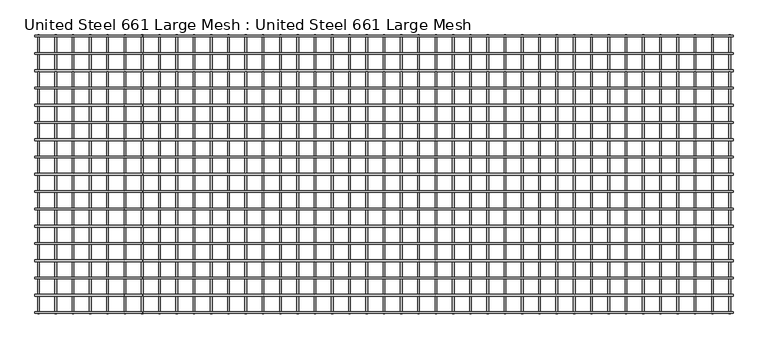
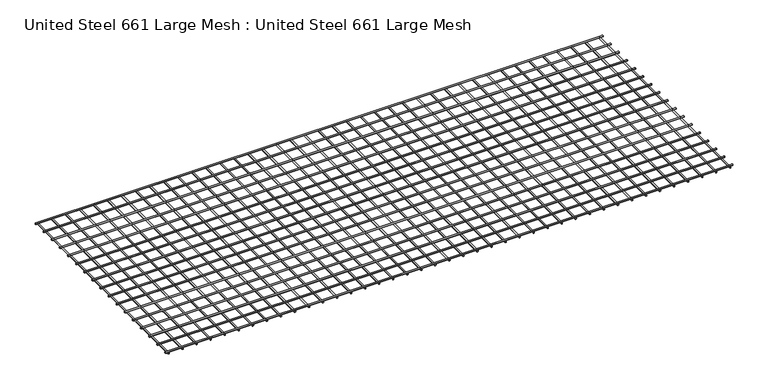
"""IFC4 building model written with IfcOpenShell, lengths in millimetres: proxy geometry, United Steel 661 Large Mesh : United Steel 661 Large Mesh."""

from ifc_helpers import new_model, si_unit, point, frame, frame_2d, origin, place, context, project, spatial, circle_curve, trimmed, segment, composite_curve, outline, extrude, source, transform, mapped, element, save


def united_steel_661_large_mesh_united_steel_661_large_mesh_0b2a143a(model_context):
    return source(origin(), model_context, "Body", "SweptSolid", [
        extrude(outline(composite_curve([segment(trimmed(circle_curve(frame_2d((-160.2412954, 22.48641)), 7.5), [point((-167.7412954, 22.48641))], [point((-152.7412954, 22.48641))], False, "CARTESIAN"), True, "CONTINUOUS"), segment(trimmed(circle_curve(frame_2d((-160.2412954, 22.48641)), 7.5), [point((-152.7412954, 22.48641))], [point((-167.7412954, 22.48641))], False, "CARTESIAN"), True, "CONTINUOUS")], self_intersect=False)), frame((-6060.0, 0.0, 0.0), z_axis=(1.0, 0.0, 0.0), x_axis=(0.0, 1.0, 0.0)), (0.0, 0.0, 1.0), 6060.0),
        extrude(outline(composite_curve([segment(trimmed(circle_curve(frame_2d((-310.2279647, 22.48641)), 7.5), [point((-317.7279647, 22.48641))], [point((-302.7279647, 22.48641))], False, "CARTESIAN"), True, "CONTINUOUS"), segment(trimmed(circle_curve(frame_2d((-310.2279647, 22.48641)), 7.5), [point((-302.7279647, 22.48641))], [point((-317.7279647, 22.48641))], False, "CARTESIAN"), True, "CONTINUOUS")], self_intersect=False)), frame((-6060.0, 0.0, 0.0), z_axis=(1.0, 0.0, 0.0), x_axis=(0.0, 1.0, 0.0)), (0.0, 0.0, 1.0), 6060.0),
        extrude(outline(composite_curve([segment(trimmed(circle_curve(frame_2d((-460.214634, 22.48641)), 7.5), [point((-467.714634, 22.48641))], [point((-452.714634, 22.48641))], False, "CARTESIAN"), True, "CONTINUOUS"), segment(trimmed(circle_curve(frame_2d((-460.214634, 22.48641)), 7.5), [point((-452.714634, 22.48641))], [point((-467.714634, 22.48641))], False, "CARTESIAN"), True, "CONTINUOUS")], self_intersect=False)), frame((-6060.0, 0.0, 0.0), z_axis=(1.0, 0.0, 0.0), x_axis=(0.0, 1.0, 0.0)), (0.0, 0.0, 1.0), 6060.0),
        extrude(outline(composite_curve([segment(trimmed(circle_curve(frame_2d((7.496924, -5879.1179494)), 7.5), [point((7.496924, -5886.6179494))], [point((7.496924, -5871.6179494))], False, "CARTESIAN"), True, "CONTINUOUS"), segment(trimmed(circle_curve(frame_2d((7.496924, -5879.1179494)), 7.5), [point((7.496924, -5871.6179494))], [point((7.496924, -5886.6179494))], False, "CARTESIAN"), True, "CONTINUOUS")], self_intersect=False)), frame((0.0, -2420.0, 0.0), z_axis=(0.0, 1.0, 0.0), x_axis=(0.0, 0.0, 1.0)), (0.0, 0.0, 1.0), 2420.0),
        extrude(outline(composite_curve([segment(trimmed(circle_curve(frame_2d((7.496924, -5729.136548)), 7.5), [point((7.496924, -5736.636548))], [point((7.496924, -5721.636548))], False, "CARTESIAN"), True, "CONTINUOUS"), segment(trimmed(circle_curve(frame_2d((7.496924, -5729.136548)), 7.5), [point((7.496924, -5721.636548))], [point((7.496924, -5736.636548))], False, "CARTESIAN"), True, "CONTINUOUS")], self_intersect=False)), frame((0.0, -2420.0, 0.0), z_axis=(0.0, 1.0, 0.0), x_axis=(0.0, 0.0, 1.0)), (0.0, 0.0, 1.0), 2420.0),
        extrude(outline(composite_curve([segment(trimmed(circle_curve(frame_2d((7.496924, -5579.1551467)), 7.5), [point((7.496924, -5586.6551467))], [point((7.496924, -5571.6551467))], False, "CARTESIAN"), True, "CONTINUOUS"), segment(trimmed(circle_curve(frame_2d((7.496924, -5579.1551467)), 7.5), [point((7.496924, -5571.6551467))], [point((7.496924, -5586.6551467))], False, "CARTESIAN"), True, "CONTINUOUS")], self_intersect=False)), frame((0.0, -2420.0, 0.0), z_axis=(0.0, 1.0, 0.0), x_axis=(0.0, 0.0, 1.0)), (0.0, 0.0, 1.0), 2420.0),
        extrude(outline(composite_curve([segment(trimmed(circle_curve(frame_2d((7.496924, -5429.1737454)), 7.5), [point((7.496924, -5436.6737454))], [point((7.496924, -5421.6737454))], False, "CARTESIAN"), True, "CONTINUOUS"), segment(trimmed(circle_curve(frame_2d((7.496924, -5429.1737454)), 7.5), [point((7.496924, -5421.6737454))], [point((7.496924, -5436.6737454))], False, "CARTESIAN"), True, "CONTINUOUS")], self_intersect=False)), frame((0.0, -2420.0, 0.0), z_axis=(0.0, 1.0, 0.0), x_axis=(0.0, 0.0, 1.0)), (0.0, 0.0, 1.0), 2420.0),
        extrude(outline(composite_curve([segment(trimmed(circle_curve(frame_2d((7.496924, -5279.1923441)), 7.5), [point((7.496924, -5286.6923441))], [point((7.496924, -5271.6923441))], False, "CARTESIAN"), True, "CONTINUOUS"), segment(trimmed(circle_curve(frame_2d((7.496924, -5279.1923441)), 7.5), [point((7.496924, -5271.6923441))], [point((7.496924, -5286.6923441))], False, "CARTESIAN"), True, "CONTINUOUS")], self_intersect=False)), frame((0.0, -2420.0, 0.0), z_axis=(0.0, 1.0, 0.0), x_axis=(0.0, 0.0, 1.0)), (0.0, 0.0, 1.0), 2420.0),
        extrude(outline(composite_curve([segment(trimmed(circle_curve(frame_2d((7.496924, -5129.2109428)), 7.5), [point((7.496924, -5136.7109428))], [point((7.496924, -5121.7109428))], False, "CARTESIAN"), True, "CONTINUOUS"), segment(trimmed(circle_curve(frame_2d((7.496924, -5129.2109428)), 7.5), [point((7.496924, -5121.7109428))], [point((7.496924, -5136.7109428))], False, "CARTESIAN"), True, "CONTINUOUS")], self_intersect=False)), frame((0.0, -2420.0, 0.0), z_axis=(0.0, 1.0, 0.0), x_axis=(0.0, 0.0, 1.0)), (0.0, 0.0, 1.0), 2420.0),
        extrude(outline(composite_curve([segment(trimmed(circle_curve(frame_2d((7.496924, -4979.2295415)), 7.5), [point((7.496924, -4986.7295415))], [point((7.496924, -4971.7295415))], False, "CARTESIAN"), True, "CONTINUOUS"), segment(trimmed(circle_curve(frame_2d((7.496924, -4979.2295415)), 7.5), [point((7.496924, -4971.7295415))], [point((7.496924, -4986.7295415))], False, "CARTESIAN"), True, "CONTINUOUS")], self_intersect=False)), frame((0.0, -2420.0, 0.0), z_axis=(0.0, 1.0, 0.0), x_axis=(0.0, 0.0, 1.0)), (0.0, 0.0, 1.0), 2420.0),
        extrude(outline(composite_curve([segment(trimmed(circle_curve(frame_2d((7.496924, -4829.2481401)), 7.5), [point((7.496924, -4836.7481401))], [point((7.496924, -4821.7481401))], False, "CARTESIAN"), True, "CONTINUOUS"), segment(trimmed(circle_curve(frame_2d((7.496924, -4829.2481401)), 7.5), [point((7.496924, -4821.7481401))], [point((7.496924, -4836.7481401))], False, "CARTESIAN"), True, "CONTINUOUS")], self_intersect=False)), frame((0.0, -2420.0, 0.0), z_axis=(0.0, 1.0, 0.0), x_axis=(0.0, 0.0, 1.0)), (0.0, 0.0, 1.0), 2420.0),
        extrude(outline(composite_curve([segment(trimmed(circle_curve(frame_2d((7.496924, -4679.2667388)), 7.5), [point((7.496924, -4686.7667388))], [point((7.496924, -4671.7667388))], False, "CARTESIAN"), True, "CONTINUOUS"), segment(trimmed(circle_curve(frame_2d((7.496924, -4679.2667388)), 7.5), [point((7.496924, -4671.7667388))], [point((7.496924, -4686.7667388))], False, "CARTESIAN"), True, "CONTINUOUS")], self_intersect=False)), frame((0.0, -2420.0, 0.0), z_axis=(0.0, 1.0, 0.0), x_axis=(0.0, 0.0, 1.0)), (0.0, 0.0, 1.0), 2420.0),
        extrude(outline(composite_curve([segment(trimmed(circle_curve(frame_2d((7.496924, -4529.2853375)), 7.5), [point((7.496924, -4536.7853375))], [point((7.496924, -4521.7853375))], False, "CARTESIAN"), True, "CONTINUOUS"), segment(trimmed(circle_curve(frame_2d((7.496924, -4529.2853375)), 7.5), [point((7.496924, -4521.7853375))], [point((7.496924, -4536.7853375))], False, "CARTESIAN"), True, "CONTINUOUS")], self_intersect=False)), frame((0.0, -2420.0, 0.0), z_axis=(0.0, 1.0, 0.0), x_axis=(0.0, 0.0, 1.0)), (0.0, 0.0, 1.0), 2420.0),
        extrude(outline(composite_curve([segment(trimmed(circle_curve(frame_2d((-610.2013032, 22.48641)), 7.5), [point((-617.7013032, 22.48641))], [point((-602.7013032, 22.48641))], False, "CARTESIAN"), True, "CONTINUOUS"), segment(trimmed(circle_curve(frame_2d((-610.2013032, 22.48641)), 7.5), [point((-602.7013032, 22.48641))], [point((-617.7013032, 22.48641))], False, "CARTESIAN"), True, "CONTINUOUS")], self_intersect=False)), frame((-6060.0, 0.0, 0.0), z_axis=(1.0, 0.0, 0.0), x_axis=(0.0, 1.0, 0.0)), (0.0, 0.0, 1.0), 6060.0),
        extrude(outline(composite_curve([segment(trimmed(circle_curve(frame_2d((7.496924, -4379.3039362)), 7.5), [point((7.496924, -4386.8039362))], [point((7.496924, -4371.8039362))], False, "CARTESIAN"), True, "CONTINUOUS"), segment(trimmed(circle_curve(frame_2d((7.496924, -4379.3039362)), 7.5), [point((7.496924, -4371.8039362))], [point((7.496924, -4386.8039362))], False, "CARTESIAN"), True, "CONTINUOUS")], self_intersect=False)), frame((0.0, -2420.0, 0.0), z_axis=(0.0, 1.0, 0.0), x_axis=(0.0, 0.0, 1.0)), (0.0, 0.0, 1.0), 2420.0),
        extrude(outline(composite_curve([segment(trimmed(circle_curve(frame_2d((-760.1879725, 22.48641)), 7.5), [point((-767.6879725, 22.48641))], [point((-752.6879725, 22.48641))], False, "CARTESIAN"), True, "CONTINUOUS"), segment(trimmed(circle_curve(frame_2d((-760.1879725, 22.48641)), 7.5), [point((-752.6879725, 22.48641))], [point((-767.6879725, 22.48641))], False, "CARTESIAN"), True, "CONTINUOUS")], self_intersect=False)), frame((-6060.0, 0.0, 0.0), z_axis=(1.0, 0.0, 0.0), x_axis=(0.0, 1.0, 0.0)), (0.0, 0.0, 1.0), 6060.0),
        extrude(outline(composite_curve([segment(trimmed(circle_curve(frame_2d((-910.1746417, 22.48641)), 7.5), [point((-917.6746417, 22.48641))], [point((-902.6746417, 22.48641))], False, "CARTESIAN"), True, "CONTINUOUS"), segment(trimmed(circle_curve(frame_2d((-910.1746417, 22.48641)), 7.5), [point((-902.6746417, 22.48641))], [point((-917.6746417, 22.48641))], False, "CARTESIAN"), True, "CONTINUOUS")], self_intersect=False)), frame((-6060.0, 0.0, 0.0), z_axis=(1.0, 0.0, 0.0), x_axis=(0.0, 1.0, 0.0)), (0.0, 0.0, 1.0), 6060.0),
        extrude(outline(composite_curve([segment(trimmed(circle_curve(frame_2d((7.496924, -4229.3225349)), 7.5), [point((7.496924, -4236.8225349))], [point((7.496924, -4221.8225349))], False, "CARTESIAN"), True, "CONTINUOUS"), segment(trimmed(circle_curve(frame_2d((7.496924, -4229.3225349)), 7.5), [point((7.496924, -4221.8225349))], [point((7.496924, -4236.8225349))], False, "CARTESIAN"), True, "CONTINUOUS")], self_intersect=False)), frame((0.0, -2420.0, 0.0), z_axis=(0.0, 1.0, 0.0), x_axis=(0.0, 0.0, 1.0)), (0.0, 0.0, 1.0), 2420.0),
        extrude(outline(composite_curve([segment(trimmed(circle_curve(frame_2d((7.496924, -4079.3411336)), 7.5), [point((7.496924, -4086.8411336))], [point((7.496924, -4071.8411336))], False, "CARTESIAN"), True, "CONTINUOUS"), segment(trimmed(circle_curve(frame_2d((7.496924, -4079.3411336)), 7.5), [point((7.496924, -4071.8411336))], [point((7.496924, -4086.8411336))], False, "CARTESIAN"), True, "CONTINUOUS")], self_intersect=False)), frame((0.0, -2420.0, 0.0), z_axis=(0.0, 1.0, 0.0), x_axis=(0.0, 0.0, 1.0)), (0.0, 0.0, 1.0), 2420.0),
        extrude(outline(composite_curve([segment(trimmed(circle_curve(frame_2d((7.496924, -3929.3597323)), 7.5), [point((7.496924, -3936.8597323))], [point((7.496924, -3921.8597323))], False, "CARTESIAN"), True, "CONTINUOUS"), segment(trimmed(circle_curve(frame_2d((7.496924, -3929.3597323)), 7.5), [point((7.496924, -3921.8597323))], [point((7.496924, -3936.8597323))], False, "CARTESIAN"), True, "CONTINUOUS")], self_intersect=False)), frame((0.0, -2420.0, 0.0), z_axis=(0.0, 1.0, 0.0), x_axis=(0.0, 0.0, 1.0)), (0.0, 0.0, 1.0), 2420.0),
        extrude(outline(composite_curve([segment(trimmed(circle_curve(frame_2d((7.496924, -3779.3783309)), 7.5), [point((7.496924, -3786.8783309))], [point((7.496924, -3771.8783309))], False, "CARTESIAN"), True, "CONTINUOUS"), segment(trimmed(circle_curve(frame_2d((7.496924, -3779.3783309)), 7.5), [point((7.496924, -3771.8783309))], [point((7.496924, -3786.8783309))], False, "CARTESIAN"), True, "CONTINUOUS")], self_intersect=False)), frame((0.0, -2420.0, 0.0), z_axis=(0.0, 1.0, 0.0), x_axis=(0.0, 0.0, 1.0)), (0.0, 0.0, 1.0), 2420.0),
        extrude(outline(composite_curve([segment(trimmed(circle_curve(frame_2d((7.496924, -3629.3969296)), 7.5), [point((7.496924, -3636.8969296))], [point((7.496924, -3621.8969296))], False, "CARTESIAN"), True, "CONTINUOUS"), segment(trimmed(circle_curve(frame_2d((7.496924, -3629.3969296)), 7.5), [point((7.496924, -3621.8969296))], [point((7.496924, -3636.8969296))], False, "CARTESIAN"), True, "CONTINUOUS")], self_intersect=False)), frame((0.0, -2420.0, 0.0), z_axis=(0.0, 1.0, 0.0), x_axis=(0.0, 0.0, 1.0)), (0.0, 0.0, 1.0), 2420.0),
        extrude(outline(composite_curve([segment(trimmed(circle_curve(frame_2d((7.496924, -3479.4155283)), 7.5), [point((7.496924, -3486.9155283))], [point((7.496924, -3471.9155283))], False, "CARTESIAN"), True, "CONTINUOUS"), segment(trimmed(circle_curve(frame_2d((7.496924, -3479.4155283)), 7.5), [point((7.496924, -3471.9155283))], [point((7.496924, -3486.9155283))], False, "CARTESIAN"), True, "CONTINUOUS")], self_intersect=False)), frame((0.0, -2420.0, 0.0), z_axis=(0.0, 1.0, 0.0), x_axis=(0.0, 0.0, 1.0)), (0.0, 0.0, 1.0), 2420.0),
        extrude(outline(composite_curve([segment(trimmed(circle_curve(frame_2d((7.496924, -3329.434127)), 7.5), [point((7.496924, -3336.934127))], [point((7.496924, -3321.934127))], False, "CARTESIAN"), True, "CONTINUOUS"), segment(trimmed(circle_curve(frame_2d((7.496924, -3329.434127)), 7.5), [point((7.496924, -3321.934127))], [point((7.496924, -3336.934127))], False, "CARTESIAN"), True, "CONTINUOUS")], self_intersect=False)), frame((0.0, -2420.0, 0.0), z_axis=(0.0, 1.0, 0.0), x_axis=(0.0, 0.0, 1.0)), (0.0, 0.0, 1.0), 2420.0),
        extrude(outline(composite_curve([segment(trimmed(circle_curve(frame_2d((-1060.161311, 22.48641)), 7.5), [point((-1067.661311, 22.48641))], [point((-1052.661311, 22.48641))], False, "CARTESIAN"), True, "CONTINUOUS"), segment(trimmed(circle_curve(frame_2d((-1060.161311, 22.48641)), 7.5), [point((-1052.661311, 22.48641))], [point((-1067.661311, 22.48641))], False, "CARTESIAN"), True, "CONTINUOUS")], self_intersect=False)), frame((-6060.0, 0.0, 0.0), z_axis=(1.0, 0.0, 0.0), x_axis=(0.0, 1.0, 0.0)), (0.0, 0.0, 1.0), 6060.0),
        extrude(outline(composite_curve([segment(trimmed(circle_curve(frame_2d((-1210.1479802, 22.48641)), 7.5), [point((-1217.6479802, 22.48641))], [point((-1202.6479802, 22.48641))], False, "CARTESIAN"), True, "CONTINUOUS"), segment(trimmed(circle_curve(frame_2d((-1210.1479802, 22.48641)), 7.5), [point((-1202.6479802, 22.48641))], [point((-1217.6479802, 22.48641))], False, "CARTESIAN"), True, "CONTINUOUS")], self_intersect=False)), frame((-6060.0, 0.0, 0.0), z_axis=(1.0, 0.0, 0.0), x_axis=(0.0, 1.0, 0.0)), (0.0, 0.0, 1.0), 6060.0),
        extrude(outline(composite_curve([segment(trimmed(circle_curve(frame_2d((-1360.1346495, 22.48641)), 7.5), [point((-1367.6346495, 22.48641))], [point((-1352.6346495, 22.48641))], False, "CARTESIAN"), True, "CONTINUOUS"), segment(trimmed(circle_curve(frame_2d((-1360.1346495, 22.48641)), 7.5), [point((-1352.6346495, 22.48641))], [point((-1367.6346495, 22.48641))], False, "CARTESIAN"), True, "CONTINUOUS")], self_intersect=False)), frame((-6060.0, 0.0, 0.0), z_axis=(1.0, 0.0, 0.0), x_axis=(0.0, 1.0, 0.0)), (0.0, 0.0, 1.0), 6060.0),
        extrude(outline(composite_curve([segment(trimmed(circle_curve(frame_2d((-1510.1213187, 22.48641)), 7.5), [point((-1517.6213187, 22.48641))], [point((-1502.6213187, 22.48641))], False, "CARTESIAN"), True, "CONTINUOUS"), segment(trimmed(circle_curve(frame_2d((-1510.1213187, 22.48641)), 7.5), [point((-1502.6213187, 22.48641))], [point((-1517.6213187, 22.48641))], False, "CARTESIAN"), True, "CONTINUOUS")], self_intersect=False)), frame((-6060.0, 0.0, 0.0), z_axis=(1.0, 0.0, 0.0), x_axis=(0.0, 1.0, 0.0)), (0.0, 0.0, 1.0), 6060.0),
        extrude(outline(composite_curve([segment(trimmed(circle_curve(frame_2d((-1660.107988, 22.48641)), 7.5), [point((-1667.607988, 22.48641))], [point((-1652.607988, 22.48641))], False, "CARTESIAN"), True, "CONTINUOUS"), segment(trimmed(circle_curve(frame_2d((-1660.107988, 22.48641)), 7.5), [point((-1652.607988, 22.48641))], [point((-1667.607988, 22.48641))], False, "CARTESIAN"), True, "CONTINUOUS")], self_intersect=False)), frame((-6060.0, 0.0, 0.0), z_axis=(1.0, 0.0, 0.0), x_axis=(0.0, 1.0, 0.0)), (0.0, 0.0, 1.0), 6060.0),
        extrude(outline(composite_curve([segment(trimmed(circle_curve(frame_2d((-1810.0946573, 22.48641)), 7.5), [point((-1817.5946573, 22.48641))], [point((-1802.5946573, 22.48641))], False, "CARTESIAN"), True, "CONTINUOUS"), segment(trimmed(circle_curve(frame_2d((-1810.0946573, 22.48641)), 7.5), [point((-1802.5946573, 22.48641))], [point((-1817.5946573, 22.48641))], False, "CARTESIAN"), True, "CONTINUOUS")], self_intersect=False)), frame((-6060.0, 0.0, 0.0), z_axis=(1.0, 0.0, 0.0), x_axis=(0.0, 1.0, 0.0)), (0.0, 0.0, 1.0), 6060.0),
        extrude(outline(composite_curve([segment(trimmed(circle_curve(frame_2d((-1960.0813265, 22.48641)), 7.5), [point((-1967.5813265, 22.48641))], [point((-1952.5813265, 22.48641))], False, "CARTESIAN"), True, "CONTINUOUS"), segment(trimmed(circle_curve(frame_2d((-1960.0813265, 22.48641)), 7.5), [point((-1952.5813265, 22.48641))], [point((-1967.5813265, 22.48641))], False, "CARTESIAN"), True, "CONTINUOUS")], self_intersect=False)), frame((-6060.0, 0.0, 0.0), z_axis=(1.0, 0.0, 0.0), x_axis=(0.0, 1.0, 0.0)), (0.0, 0.0, 1.0), 6060.0),
        extrude(outline(composite_curve([segment(trimmed(circle_curve(frame_2d((-2110.0679958, 22.48641)), 7.5), [point((-2117.5679958, 22.48641))], [point((-2102.5679958, 22.48641))], False, "CARTESIAN"), True, "CONTINUOUS"), segment(trimmed(circle_curve(frame_2d((-2110.0679958, 22.48641)), 7.5), [point((-2102.5679958, 22.48641))], [point((-2117.5679958, 22.48641))], False, "CARTESIAN"), True, "CONTINUOUS")], self_intersect=False)), frame((-6060.0, 0.0, 0.0), z_axis=(1.0, 0.0, 0.0), x_axis=(0.0, 1.0, 0.0)), (0.0, 0.0, 1.0), 6060.0),
        extrude(outline(composite_curve([segment(trimmed(circle_curve(frame_2d((-2260.054665, 22.48641)), 7.5), [point((-2267.554665, 22.48641))], [point((-2252.554665, 22.48641))], False, "CARTESIAN"), True, "CONTINUOUS"), segment(trimmed(circle_curve(frame_2d((-2260.054665, 22.48641)), 7.5), [point((-2252.554665, 22.48641))], [point((-2267.554665, 22.48641))], False, "CARTESIAN"), True, "CONTINUOUS")], self_intersect=False)), frame((-6060.0, 0.0, 0.0), z_axis=(1.0, 0.0, 0.0), x_axis=(0.0, 1.0, 0.0)), (0.0, 0.0, 1.0), 6060.0),
        extrude(outline(composite_curve([segment(trimmed(circle_curve(frame_2d((-10.2546262, 22.48641)), 7.5), [point((-17.7546262, 22.48641))], [point((-2.7546262, 22.48641))], False, "CARTESIAN"), True, "CONTINUOUS"), segment(trimmed(circle_curve(frame_2d((-10.2546262, 22.48641)), 7.5), [point((-2.7546262, 22.48641))], [point((-17.7546262, 22.48641))], False, "CARTESIAN"), True, "CONTINUOUS")], self_intersect=False)), frame((-6060.0, 0.0, 0.0), z_axis=(1.0, 0.0, 0.0), x_axis=(0.0, 1.0, 0.0)), (0.0, 0.0, 1.0), 6060.0),
        extrude(outline(composite_curve([segment(trimmed(circle_curve(frame_2d((-2410.0413343, 22.48641)), 7.5), [point((-2417.5413343, 22.48641))], [point((-2402.5413343, 22.48641))], False, "CARTESIAN"), True, "CONTINUOUS"), segment(trimmed(circle_curve(frame_2d((-2410.0413343, 22.48641)), 7.5), [point((-2402.5413343, 22.48641))], [point((-2417.5413343, 22.48641))], False, "CARTESIAN"), True, "CONTINUOUS")], self_intersect=False)), frame((-6060.0, 0.0, 0.0), z_axis=(1.0, 0.0, 0.0), x_axis=(0.0, 1.0, 0.0)), (0.0, 0.0, 1.0), 6060.0),
        extrude(outline(composite_curve([segment(trimmed(circle_curve(frame_2d((7.496924, -3179.4527257)), 7.5), [point((7.496924, -3186.9527257))], [point((7.496924, -3171.9527257))], False, "CARTESIAN"), True, "CONTINUOUS"), segment(trimmed(circle_curve(frame_2d((7.496924, -3179.4527257)), 7.5), [point((7.496924, -3171.9527257))], [point((7.496924, -3186.9527257))], False, "CARTESIAN"), True, "CONTINUOUS")], self_intersect=False)), frame((0.0, -2420.0, 0.0), z_axis=(0.0, 1.0, 0.0), x_axis=(0.0, 0.0, 1.0)), (0.0, 0.0, 1.0), 2420.0),
        extrude(outline(composite_curve([segment(trimmed(circle_curve(frame_2d((7.496924, -3029.4713244)), 7.5), [point((7.496924, -3036.9713244))], [point((7.496924, -3021.9713244))], False, "CARTESIAN"), True, "CONTINUOUS"), segment(trimmed(circle_curve(frame_2d((7.496924, -3029.4713244)), 7.5), [point((7.496924, -3021.9713244))], [point((7.496924, -3036.9713244))], False, "CARTESIAN"), True, "CONTINUOUS")], self_intersect=False)), frame((0.0, -2420.0, 0.0), z_axis=(0.0, 1.0, 0.0), x_axis=(0.0, 0.0, 1.0)), (0.0, 0.0, 1.0), 2420.0),
        extrude(outline(composite_curve([segment(trimmed(circle_curve(frame_2d((7.496924, -2879.489923)), 7.5), [point((7.496924, -2886.989923))], [point((7.496924, -2871.989923))], False, "CARTESIAN"), True, "CONTINUOUS"), segment(trimmed(circle_curve(frame_2d((7.496924, -2879.489923)), 7.5), [point((7.496924, -2871.989923))], [point((7.496924, -2886.989923))], False, "CARTESIAN"), True, "CONTINUOUS")], self_intersect=False)), frame((0.0, -2420.0, 0.0), z_axis=(0.0, 1.0, 0.0), x_axis=(0.0, 0.0, 1.0)), (0.0, 0.0, 1.0), 2420.0),
        extrude(outline(composite_curve([segment(trimmed(circle_curve(frame_2d((7.496924, -2729.5085217)), 7.5), [point((7.496924, -2737.0085217))], [point((7.496924, -2722.0085217))], False, "CARTESIAN"), True, "CONTINUOUS"), segment(trimmed(circle_curve(frame_2d((7.496924, -2729.5085217)), 7.5), [point((7.496924, -2722.0085217))], [point((7.496924, -2737.0085217))], False, "CARTESIAN"), True, "CONTINUOUS")], self_intersect=False)), frame((0.0, -2420.0, 0.0), z_axis=(0.0, 1.0, 0.0), x_axis=(0.0, 0.0, 1.0)), (0.0, 0.0, 1.0), 2420.0),
        extrude(outline(composite_curve([segment(trimmed(circle_curve(frame_2d((7.496924, -2579.5271204)), 7.5), [point((7.496924, -2587.0271204))], [point((7.496924, -2572.0271204))], False, "CARTESIAN"), True, "CONTINUOUS"), segment(trimmed(circle_curve(frame_2d((7.496924, -2579.5271204)), 7.5), [point((7.496924, -2572.0271204))], [point((7.496924, -2587.0271204))], False, "CARTESIAN"), True, "CONTINUOUS")], self_intersect=False)), frame((0.0, -2420.0, 0.0), z_axis=(0.0, 1.0, 0.0), x_axis=(0.0, 0.0, 1.0)), (0.0, 0.0, 1.0), 2420.0),
        extrude(outline(composite_curve([segment(trimmed(circle_curve(frame_2d((7.496924, -2429.5457191)), 7.5), [point((7.496924, -2437.0457191))], [point((7.496924, -2422.0457191))], False, "CARTESIAN"), True, "CONTINUOUS"), segment(trimmed(circle_curve(frame_2d((7.496924, -2429.5457191)), 7.5), [point((7.496924, -2422.0457191))], [point((7.496924, -2437.0457191))], False, "CARTESIAN"), True, "CONTINUOUS")], self_intersect=False)), frame((0.0, -2420.0, 0.0), z_axis=(0.0, 1.0, 0.0), x_axis=(0.0, 0.0, 1.0)), (0.0, 0.0, 1.0), 2420.0),
        extrude(outline(composite_curve([segment(trimmed(circle_curve(frame_2d((7.496924, -2279.5643178)), 7.5), [point((7.496924, -2287.0643178))], [point((7.496924, -2272.0643178))], False, "CARTESIAN"), True, "CONTINUOUS"), segment(trimmed(circle_curve(frame_2d((7.496924, -2279.5643178)), 7.5), [point((7.496924, -2272.0643178))], [point((7.496924, -2287.0643178))], False, "CARTESIAN"), True, "CONTINUOUS")], self_intersect=False)), frame((0.0, -2420.0, 0.0), z_axis=(0.0, 1.0, 0.0), x_axis=(0.0, 0.0, 1.0)), (0.0, 0.0, 1.0), 2420.0),
        extrude(outline(composite_curve([segment(trimmed(circle_curve(frame_2d((7.496924, -2129.5829165)), 7.5), [point((7.496924, -2137.0829165))], [point((7.496924, -2122.0829165))], False, "CARTESIAN"), True, "CONTINUOUS"), segment(trimmed(circle_curve(frame_2d((7.496924, -2129.5829165)), 7.5), [point((7.496924, -2122.0829165))], [point((7.496924, -2137.0829165))], False, "CARTESIAN"), True, "CONTINUOUS")], self_intersect=False)), frame((0.0, -2420.0, 0.0), z_axis=(0.0, 1.0, 0.0), x_axis=(0.0, 0.0, 1.0)), (0.0, 0.0, 1.0), 2420.0),
        extrude(outline(composite_curve([segment(trimmed(circle_curve(frame_2d((7.496924, -1979.6015152)), 7.5), [point((7.496924, -1987.1015152))], [point((7.496924, -1972.1015152))], False, "CARTESIAN"), True, "CONTINUOUS"), segment(trimmed(circle_curve(frame_2d((7.496924, -1979.6015152)), 7.5), [point((7.496924, -1972.1015152))], [point((7.496924, -1987.1015152))], False, "CARTESIAN"), True, "CONTINUOUS")], self_intersect=False)), frame((0.0, -2420.0, 0.0), z_axis=(0.0, 1.0, 0.0), x_axis=(0.0, 0.0, 1.0)), (0.0, 0.0, 1.0), 2420.0),
        extrude(outline(composite_curve([segment(trimmed(circle_curve(frame_2d((7.496924, -1829.6201138)), 7.5), [point((7.496924, -1837.1201138))], [point((7.496924, -1822.1201138))], False, "CARTESIAN"), True, "CONTINUOUS"), segment(trimmed(circle_curve(frame_2d((7.496924, -1829.6201138)), 7.5), [point((7.496924, -1822.1201138))], [point((7.496924, -1837.1201138))], False, "CARTESIAN"), True, "CONTINUOUS")], self_intersect=False)), frame((0.0, -2420.0, 0.0), z_axis=(0.0, 1.0, 0.0), x_axis=(0.0, 0.0, 1.0)), (0.0, 0.0, 1.0), 2420.0),
        extrude(outline(composite_curve([segment(trimmed(circle_curve(frame_2d((7.496924, -1679.6387125)), 7.5), [point((7.496924, -1687.1387125))], [point((7.496924, -1672.1387125))], False, "CARTESIAN"), True, "CONTINUOUS"), segment(trimmed(circle_curve(frame_2d((7.496924, -1679.6387125)), 7.5), [point((7.496924, -1672.1387125))], [point((7.496924, -1687.1387125))], False, "CARTESIAN"), True, "CONTINUOUS")], self_intersect=False)), frame((0.0, -2420.0, 0.0), z_axis=(0.0, 1.0, 0.0), x_axis=(0.0, 0.0, 1.0)), (0.0, 0.0, 1.0), 2420.0),
        extrude(outline(composite_curve([segment(trimmed(circle_curve(frame_2d((7.496924, -1529.6573112)), 7.5), [point((7.496924, -1537.1573112))], [point((7.496924, -1522.1573112))], False, "CARTESIAN"), True, "CONTINUOUS"), segment(trimmed(circle_curve(frame_2d((7.496924, -1529.6573112)), 7.5), [point((7.496924, -1522.1573112))], [point((7.496924, -1537.1573112))], False, "CARTESIAN"), True, "CONTINUOUS")], self_intersect=False)), frame((0.0, -2420.0, 0.0), z_axis=(0.0, 1.0, 0.0), x_axis=(0.0, 0.0, 1.0)), (0.0, 0.0, 1.0), 2420.0),
        extrude(outline(composite_curve([segment(trimmed(circle_curve(frame_2d((7.496924, -1379.6759099)), 7.5), [point((7.496924, -1387.1759099))], [point((7.496924, -1372.1759099))], False, "CARTESIAN"), True, "CONTINUOUS"), segment(trimmed(circle_curve(frame_2d((7.496924, -1379.6759099)), 7.5), [point((7.496924, -1372.1759099))], [point((7.496924, -1387.1759099))], False, "CARTESIAN"), True, "CONTINUOUS")], self_intersect=False)), frame((0.0, -2420.0, 0.0), z_axis=(0.0, 1.0, 0.0), x_axis=(0.0, 0.0, 1.0)), (0.0, 0.0, 1.0), 2420.0),
        extrude(outline(composite_curve([segment(trimmed(circle_curve(frame_2d((7.496924, -1229.6945086)), 7.5), [point((7.496924, -1237.1945086))], [point((7.496924, -1222.1945086))], False, "CARTESIAN"), True, "CONTINUOUS"), segment(trimmed(circle_curve(frame_2d((7.496924, -1229.6945086)), 7.5), [point((7.496924, -1222.1945086))], [point((7.496924, -1237.1945086))], False, "CARTESIAN"), True, "CONTINUOUS")], self_intersect=False)), frame((0.0, -2420.0, 0.0), z_axis=(0.0, 1.0, 0.0), x_axis=(0.0, 0.0, 1.0)), (0.0, 0.0, 1.0), 2420.0),
        extrude(outline(composite_curve([segment(trimmed(circle_curve(frame_2d((7.496924, -1079.7131073)), 7.5), [point((7.496924, -1087.2131073))], [point((7.496924, -1072.2131073))], False, "CARTESIAN"), True, "CONTINUOUS"), segment(trimmed(circle_curve(frame_2d((7.496924, -1079.7131073)), 7.5), [point((7.496924, -1072.2131073))], [point((7.496924, -1087.2131073))], False, "CARTESIAN"), True, "CONTINUOUS")], self_intersect=False)), frame((0.0, -2420.0, 0.0), z_axis=(0.0, 1.0, 0.0), x_axis=(0.0, 0.0, 1.0)), (0.0, 0.0, 1.0), 2420.0),
        extrude(outline(composite_curve([segment(trimmed(circle_curve(frame_2d((7.496924, -929.7317059)), 7.5), [point((7.496924, -937.2317059))], [point((7.496924, -922.2317059))], False, "CARTESIAN"), True, "CONTINUOUS"), segment(trimmed(circle_curve(frame_2d((7.496924, -929.7317059)), 7.5), [point((7.496924, -922.2317059))], [point((7.496924, -937.2317059))], False, "CARTESIAN"), True, "CONTINUOUS")], self_intersect=False)), frame((0.0, -2420.0, 0.0), z_axis=(0.0, 1.0, 0.0), x_axis=(0.0, 0.0, 1.0)), (0.0, 0.0, 1.0), 2420.0),
        extrude(outline(composite_curve([segment(trimmed(circle_curve(frame_2d((7.496924, -779.7503046)), 7.5), [point((7.496924, -787.2503046))], [point((7.496924, -772.2503046))], False, "CARTESIAN"), True, "CONTINUOUS"), segment(trimmed(circle_curve(frame_2d((7.496924, -779.7503046)), 7.5), [point((7.496924, -772.2503046))], [point((7.496924, -787.2503046))], False, "CARTESIAN"), True, "CONTINUOUS")], self_intersect=False)), frame((0.0, -2420.0, 0.0), z_axis=(0.0, 1.0, 0.0), x_axis=(0.0, 0.0, 1.0)), (0.0, 0.0, 1.0), 2420.0),
        extrude(outline(composite_curve([segment(trimmed(circle_curve(frame_2d((7.496924, -629.7689033)), 7.5), [point((7.496924, -637.2689033))], [point((7.496924, -622.2689033))], False, "CARTESIAN"), True, "CONTINUOUS"), segment(trimmed(circle_curve(frame_2d((7.496924, -629.7689033)), 7.5), [point((7.496924, -622.2689033))], [point((7.496924, -637.2689033))], False, "CARTESIAN"), True, "CONTINUOUS")], self_intersect=False)), frame((0.0, -2420.0, 0.0), z_axis=(0.0, 1.0, 0.0), x_axis=(0.0, 0.0, 1.0)), (0.0, 0.0, 1.0), 2420.0),
        extrude(outline(composite_curve([segment(trimmed(circle_curve(frame_2d((7.496924, -479.787502)), 7.5), [point((7.496924, -487.287502))], [point((7.496924, -472.287502))], False, "CARTESIAN"), True, "CONTINUOUS"), segment(trimmed(circle_curve(frame_2d((7.496924, -479.787502)), 7.5), [point((7.496924, -472.287502))], [point((7.496924, -487.287502))], False, "CARTESIAN"), True, "CONTINUOUS")], self_intersect=False)), frame((0.0, -2420.0, 0.0), z_axis=(0.0, 1.0, 0.0), x_axis=(0.0, 0.0, 1.0)), (0.0, 0.0, 1.0), 2420.0),
        extrude(outline(composite_curve([segment(trimmed(circle_curve(frame_2d((7.496924, -329.8061007)), 7.5), [point((7.496924, -337.3061007))], [point((7.496924, -322.3061007))], False, "CARTESIAN"), True, "CONTINUOUS"), segment(trimmed(circle_curve(frame_2d((7.496924, -329.8061007)), 7.5), [point((7.496924, -322.3061007))], [point((7.496924, -337.3061007))], False, "CARTESIAN"), True, "CONTINUOUS")], self_intersect=False)), frame((0.0, -2420.0, 0.0), z_axis=(0.0, 1.0, 0.0), x_axis=(0.0, 0.0, 1.0)), (0.0, 0.0, 1.0), 2420.0),
        extrude(outline(composite_curve([segment(trimmed(circle_curve(frame_2d((7.496924, -179.8246994)), 7.5), [point((7.496924, -187.3246994))], [point((7.496924, -172.3246994))], False, "CARTESIAN"), True, "CONTINUOUS"), segment(trimmed(circle_curve(frame_2d((7.496924, -179.8246994)), 7.5), [point((7.496924, -172.3246994))], [point((7.496924, -187.3246994))], False, "CARTESIAN"), True, "CONTINUOUS")], self_intersect=False)), frame((0.0, -2420.0, 0.0), z_axis=(0.0, 1.0, 0.0), x_axis=(0.0, 0.0, 1.0)), (0.0, 0.0, 1.0), 2420.0),
        extrude(outline(composite_curve([segment(trimmed(circle_curve(frame_2d((7.496924, -6029.0993507)), 7.5), [point((7.496924, -6036.5993507))], [point((7.496924, -6021.5993507))], False, "CARTESIAN"), True, "CONTINUOUS"), segment(trimmed(circle_curve(frame_2d((7.496924, -6029.0993507)), 7.5), [point((7.496924, -6021.5993507))], [point((7.496924, -6036.5993507))], False, "CARTESIAN"), True, "CONTINUOUS")], self_intersect=False)), frame((0.0, -2420.0, 0.0), z_axis=(0.0, 1.0, 0.0), x_axis=(0.0, 0.0, 1.0)), (0.0, 0.0, 1.0), 2420.0),
        extrude(outline(composite_curve([segment(trimmed(circle_curve(frame_2d((7.496924, -29.8432981)), 7.5), [point((7.496924, -37.3432981))], [point((7.496924, -22.3432981))], False, "CARTESIAN"), True, "CONTINUOUS"), segment(trimmed(circle_curve(frame_2d((7.496924, -29.8432981)), 7.5), [point((7.496924, -22.3432981))], [point((7.496924, -37.3432981))], False, "CARTESIAN"), True, "CONTINUOUS")], self_intersect=False)), frame((0.0, -2420.0, 0.0), z_axis=(0.0, 1.0, 0.0), x_axis=(0.0, 0.0, 1.0)), (0.0, 0.0, 1.0), 2420.0),
    ])


if __name__ == "__main__":
    model = new_model("IFC4")
    model_context = context("Model", 3, world=origin())
    ifc_project = project(units=[si_unit("LENGTHUNIT", "METRE", prefix="MILLI")], contexts=[model_context])
    site = spatial("IfcSite", under=ifc_project)
    building = spatial("IfcBuilding", under=site)
    placement = place(None, origin())
    united_steel_661_large_mesh_united_steel_661_large_mesh_shape = united_steel_661_large_mesh_united_steel_661_large_mesh_0b2a143a(model_context)
    element("IfcBuildingElementProxy", 1, Name="United Steel 661 Large Mesh : United Steel 661 Large Mesh", ObjectType="United Steel 661 Large Mesh : United Steel 661 Large Mesh", at=placement, inside=building, context=model_context, shape_type="MappedRepresentation", body=[
        mapped(united_steel_661_large_mesh_united_steel_661_large_mesh_shape, transform((0.0, 0.0, 0.0), x_axis=(1.0, 0.0, 0.0), y_axis=(0.0, 1.0, 0.0), z_axis=(0.0, 0.0, 1.0))),
    ])
    save(model, "model.ifc")
